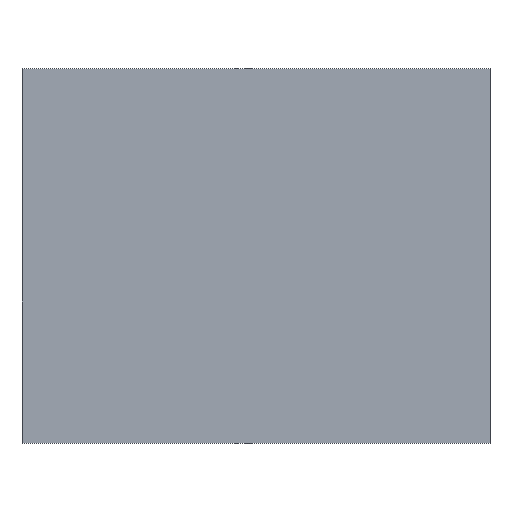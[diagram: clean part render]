
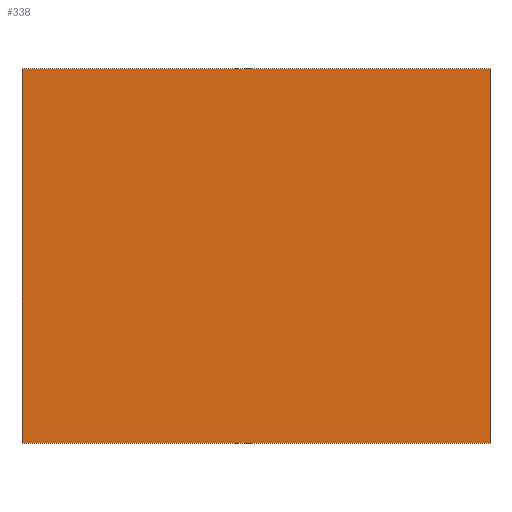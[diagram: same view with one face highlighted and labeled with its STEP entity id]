
A CAD part, top view. The second image highlights one B-rep face of the part: STEP entity #338.
In plain terms, the highlighted planar face has unit normal (0, 0, 1).
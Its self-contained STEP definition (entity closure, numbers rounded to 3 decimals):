
#24 = VERTEX_POINT('',#25);
#25 = CARTESIAN_POINT('',(633.,1.,-19.));
#32 = PLANE('',#33);
#33 = AXIS2_PLACEMENT_3D('',#34,#35,#36);
#34 = CARTESIAN_POINT('',(633.,1.,-22.));
#35 = DIRECTION('',(1.,0.,0.));
#36 = DIRECTION('',(0.,0.,1.));
#44 = PLANE('',#45);
#45 = AXIS2_PLACEMENT_3D('',#46,#47,#48);
#46 = CARTESIAN_POINT('',(633.,1.,-22.));
#47 = DIRECTION('',(0.,1.,0.));
#48 = DIRECTION('',(0.,0.,1.));
#85 = VERTEX_POINT('',#86);
#86 = CARTESIAN_POINT('',(633.,21.,-19.));
#100 = PLANE('',#101);
#101 = AXIS2_PLACEMENT_3D('',#102,#103,#104);
#102 = CARTESIAN_POINT('',(633.,21.,-22.));
#103 = DIRECTION('',(0.,1.,0.));
#104 = DIRECTION('',(0.,0.,1.));
#112 = EDGE_CURVE('',#24,#85,#113,.T.);
#113 = SURFACE_CURVE('',#114,(#118,#125),.PCURVE_S1.);
#114 = LINE('',#115,#116);
#115 = CARTESIAN_POINT('',(633.,1.,-19.));
#116 = VECTOR('',#117,1.);
#117 = DIRECTION('',(0.,1.,0.));
#118 = PCURVE('',#32,#119);
#119 = DEFINITIONAL_REPRESENTATION('',(#120),#124);
#120 = LINE('',#121,#122);
#121 = CARTESIAN_POINT('',(3.,0.));
#122 = VECTOR('',#123,1.);
#123 = DIRECTION('',(0.,-1.));
#124 = ( GEOMETRIC_REPRESENTATION_CONTEXT(2) 
PARAMETRIC_REPRESENTATION_CONTEXT() REPRESENTATION_CONTEXT('2D SPACE',''
  ) );
#125 = PCURVE('',#126,#131);
#126 = PLANE('',#127);
#127 = AXIS2_PLACEMENT_3D('',#128,#129,#130);
#128 = CARTESIAN_POINT('',(633.,1.,-19.));
#129 = DIRECTION('',(0.,0.,1.));
#130 = DIRECTION('',(1.,0.,0.));
#131 = DEFINITIONAL_REPRESENTATION('',(#132),#136);
#132 = LINE('',#133,#134);
#133 = CARTESIAN_POINT('',(0.,0.));
#134 = VECTOR('',#135,1.);
#135 = DIRECTION('',(0.,1.));
#136 = ( GEOMETRIC_REPRESENTATION_CONTEXT(2) 
PARAMETRIC_REPRESENTATION_CONTEXT() REPRESENTATION_CONTEXT('2D SPACE',''
  ) );
#144 = VERTEX_POINT('',#145);
#145 = CARTESIAN_POINT('',(658.,1.,-19.));
#152 = PLANE('',#153);
#153 = AXIS2_PLACEMENT_3D('',#154,#155,#156);
#154 = CARTESIAN_POINT('',(658.,1.,-22.));
#155 = DIRECTION('',(1.,0.,0.));
#156 = DIRECTION('',(0.,0.,1.));
#195 = VERTEX_POINT('',#196);
#196 = CARTESIAN_POINT('',(658.,21.,-19.));
#217 = EDGE_CURVE('',#144,#195,#218,.T.);
#218 = SURFACE_CURVE('',#219,(#223,#230),.PCURVE_S1.);
#219 = LINE('',#220,#221);
#220 = CARTESIAN_POINT('',(658.,1.,-19.));
#221 = VECTOR('',#222,1.);
#222 = DIRECTION('',(0.,1.,0.));
#223 = PCURVE('',#152,#224);
#224 = DEFINITIONAL_REPRESENTATION('',(#225),#229);
#225 = LINE('',#226,#227);
#226 = CARTESIAN_POINT('',(3.,0.));
#227 = VECTOR('',#228,1.);
#228 = DIRECTION('',(0.,-1.));
#229 = ( GEOMETRIC_REPRESENTATION_CONTEXT(2) 
PARAMETRIC_REPRESENTATION_CONTEXT() REPRESENTATION_CONTEXT('2D SPACE',''
  ) );
#230 = PCURVE('',#126,#231);
#231 = DEFINITIONAL_REPRESENTATION('',(#232),#236);
#232 = LINE('',#233,#234);
#233 = CARTESIAN_POINT('',(25.,0.));
#234 = VECTOR('',#235,1.);
#235 = DIRECTION('',(0.,1.));
#236 = ( GEOMETRIC_REPRESENTATION_CONTEXT(2) 
PARAMETRIC_REPRESENTATION_CONTEXT() REPRESENTATION_CONTEXT('2D SPACE',''
  ) );
#263 = EDGE_CURVE('',#24,#144,#264,.T.);
#264 = SURFACE_CURVE('',#265,(#269,#276),.PCURVE_S1.);
#265 = LINE('',#266,#267);
#266 = CARTESIAN_POINT('',(633.,1.,-19.));
#267 = VECTOR('',#268,1.);
#268 = DIRECTION('',(1.,0.,0.));
#269 = PCURVE('',#44,#270);
#270 = DEFINITIONAL_REPRESENTATION('',(#271),#275);
#271 = LINE('',#272,#273);
#272 = CARTESIAN_POINT('',(3.,0.));
#273 = VECTOR('',#274,1.);
#274 = DIRECTION('',(0.,1.));
#275 = ( GEOMETRIC_REPRESENTATION_CONTEXT(2) 
PARAMETRIC_REPRESENTATION_CONTEXT() REPRESENTATION_CONTEXT('2D SPACE',''
  ) );
#276 = PCURVE('',#126,#277);
#277 = DEFINITIONAL_REPRESENTATION('',(#278),#282);
#278 = LINE('',#279,#280);
#279 = CARTESIAN_POINT('',(0.,0.));
#280 = VECTOR('',#281,1.);
#281 = DIRECTION('',(1.,0.));
#282 = ( GEOMETRIC_REPRESENTATION_CONTEXT(2) 
PARAMETRIC_REPRESENTATION_CONTEXT() REPRESENTATION_CONTEXT('2D SPACE',''
  ) );
#310 = EDGE_CURVE('',#85,#195,#311,.T.);
#311 = SURFACE_CURVE('',#312,(#316,#323),.PCURVE_S1.);
#312 = LINE('',#313,#314);
#313 = CARTESIAN_POINT('',(633.,21.,-19.));
#314 = VECTOR('',#315,1.);
#315 = DIRECTION('',(1.,0.,0.));
#316 = PCURVE('',#100,#317);
#317 = DEFINITIONAL_REPRESENTATION('',(#318),#322);
#318 = LINE('',#319,#320);
#319 = CARTESIAN_POINT('',(3.,0.));
#320 = VECTOR('',#321,1.);
#321 = DIRECTION('',(0.,1.));
#322 = ( GEOMETRIC_REPRESENTATION_CONTEXT(2) 
PARAMETRIC_REPRESENTATION_CONTEXT() REPRESENTATION_CONTEXT('2D SPACE',''
  ) );
#323 = PCURVE('',#126,#324);
#324 = DEFINITIONAL_REPRESENTATION('',(#325),#329);
#325 = LINE('',#326,#327);
#326 = CARTESIAN_POINT('',(0.,20.));
#327 = VECTOR('',#328,1.);
#328 = DIRECTION('',(1.,0.));
#329 = ( GEOMETRIC_REPRESENTATION_CONTEXT(2) 
PARAMETRIC_REPRESENTATION_CONTEXT() REPRESENTATION_CONTEXT('2D SPACE',''
  ) );
#338 = ADVANCED_FACE('',(#339),#126,.T.);
#339 = FACE_BOUND('',#340,.T.);
#340 = EDGE_LOOP('',(#341,#342,#343,#344));
#341 = ORIENTED_EDGE('',*,*,#112,.F.);
#342 = ORIENTED_EDGE('',*,*,#263,.T.);
#343 = ORIENTED_EDGE('',*,*,#217,.T.);
#344 = ORIENTED_EDGE('',*,*,#310,.F.);
